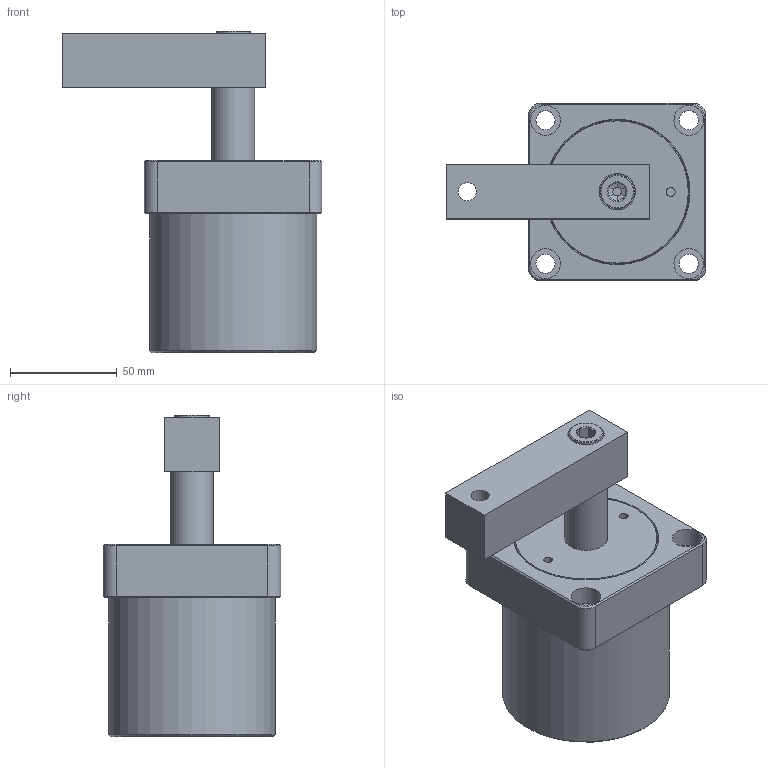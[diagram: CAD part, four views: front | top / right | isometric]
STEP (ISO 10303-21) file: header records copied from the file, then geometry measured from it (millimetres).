
FILE_DESCRIPTION(/* description */ ('Unknown'),/* implementation_level */ '2;1');
FILE_NAME(/* name */ 'ASC-FA63S-A',/* time_stamp */ '2019-05-20T10:29:08+08:00',/* author */ ('Unknown'),/* organization */ ('Unknown'),/* preprocessor_version */ 'ST-DEVELOPER v16.7',/* originating_system */ 'DEX',/* authorisation */ $);
FILE_SCHEMA (('AUTOMOTIVE_DESIGN {1 0 10303 214 3 1 1}'));
Length unit declared in the file: millimetre
Products named in the file (5): ASC-FA63S-A; ASC-FA63S-CYLINDER; ASC-6302-S-AXLE CENTRE; ASC-63S-A; ASC-6302-S-THREAD
Assembly tree (4 placements, depth 2):
  ASC-FA63S-A
    ASC-FA63S-CYLINDER
    ASC-6302-S-AXLE CENTRE
    ASC-63S-A
    ASC-6302-S-THREAD
Bounding box: 121.5 x 83 x 150.4 mm (x, y, z)
Volume: 446609.7 mm3; surface area: 85723.2 mm2
Topology: 4 solids, 4 shells, 109 faces, 215 edges, 132 vertices
Faces by surface type: plane 48, cylinder 27, cone 25, bspline 6, torus 3
Full cylindrical faces by diameter (mm): 4.1 x2, 8.5 x1, 9 x4, 9.147 x2, 10 x2, 11 x1, 14 x4, 16 x1, 17 x1, 20 x2, 63 x2, 78 x1
Entity records: 3471 total; most frequent: CARTESIAN_POINT 532, DIRECTION 460, ORIENTED_EDGE 332, AXIS2_PLACEMENT_3D 198, EDGE_LOOP 176, FACE_BOUND 176, EDGE_CURVE 166, VERTEX_POINT 120
